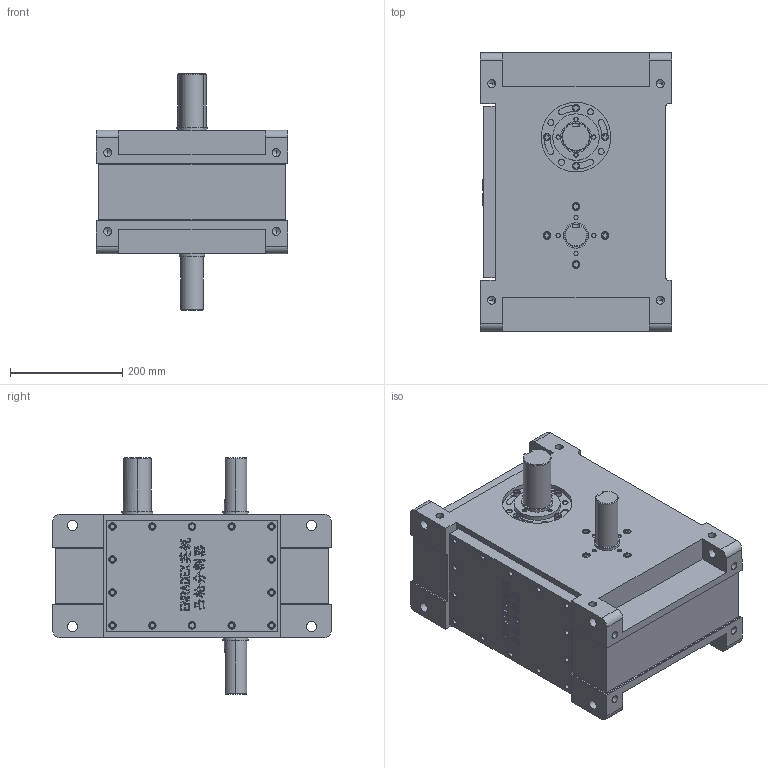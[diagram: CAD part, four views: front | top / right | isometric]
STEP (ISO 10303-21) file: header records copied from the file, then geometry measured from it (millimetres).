
FILE_DESCRIPTION (( 'STEP AP214' ), '1' );
FILE_NAME ('ER-PU175DS英锐凸轮分割器3D标准图纸(电话15062628977)A.STEP', '2022-10-27T08:59:39', ( '微软用户' ), ( '微软中国' ), 'SwSTEP 2.0', 'SolidWorks 2017', '' );
FILE_SCHEMA (( 'AUTOMOTIVE_DESIGN' ));
Length unit declared in the file: millimetre
Products named in the file (1): ER-PU175DS英锐凸轮分割器3D标准图纸(电话15062628977)A
Bounding box: 340 x 495 x 420 mm (x, y, z)
Volume: 32673708.8 mm3; surface area: 859137.2 mm2
Topology: 1 solids, 1 shells, 1054 faces, 2570 edges, 1664 vertices
Faces by surface type: plane 506, cylinder 300, bspline 209, cone 39
Entity records: 51541 total; most frequent: CARTESIAN_POINT 22082, ORIENTED_EDGE 5076, DIRECTION 4556, EDGE_CURVE 2538, VERTEX_POINT 1664, AXIS2_PLACEMENT_3D 1548, VECTOR 1460, LINE 1460
